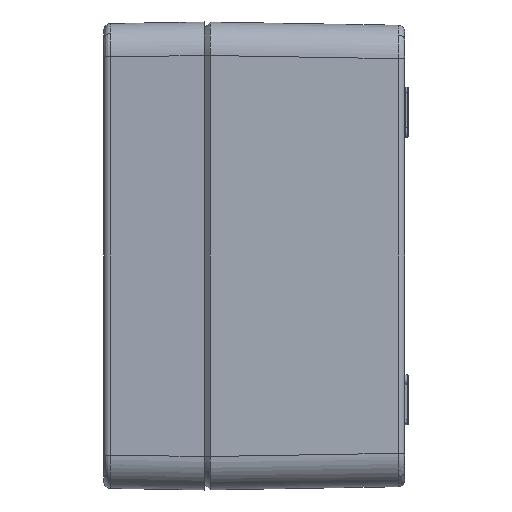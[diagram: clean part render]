
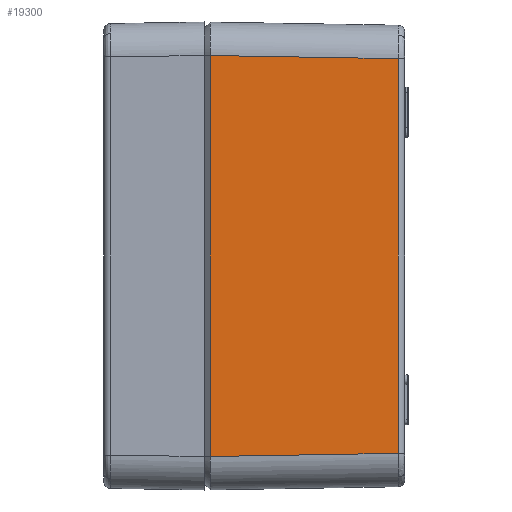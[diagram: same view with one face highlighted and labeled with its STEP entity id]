
A CAD part, left-side view. The second image highlights one B-rep face of the part: STEP entity #19300.
In plain terms, the highlighted planar face has unit normal (-1, -0.017, 0).
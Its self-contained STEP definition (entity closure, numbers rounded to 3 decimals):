
#163 = ORIENTED_EDGE ( 'NONE', *, *, #24269, .T. ) ;
#702 = CARTESIAN_POINT ( 'NONE',  ( -99.033, -58.033, 59.034 ) ) ;
#4187 = CARTESIAN_POINT ( 'NONE',  ( -99.033, -58.033, 59.001 ) ) ;
#4540 = ORIENTED_EDGE ( 'NONE', *, *, #5304, .T. ) ;
#4602 = DIRECTION ( 'NONE',  ( -1., -0.017, 0. ) ) ;
#5304 = EDGE_CURVE ( 'NONE', #18260, #7636, #10612, .T. ) ;
#7636 = VERTEX_POINT ( 'NONE', #29131 ) ;
#9640 = ORIENTED_EDGE ( 'NONE', *, *, #26011, .T. ) ;
#10612 = LINE ( 'NONE', #13188, #15357 ) ;
#12832 = DIRECTION ( 'NONE',  ( -0.017, 1., 0. ) ) ;
#13188 = CARTESIAN_POINT ( 'NONE',  ( -100.003, 0.167, -60.004 ) ) ;
#13541 = CARTESIAN_POINT ( 'NONE',  ( -99.97, -1.8, 59.971 ) ) ;
#15357 = VECTOR ( 'NONE', #16456, 1000. ) ;
#16456 = DIRECTION ( 'NONE',  ( 0.017, -1., 0.017 ) ) ;
#17658 = EDGE_CURVE ( 'NONE', #18005, #30379, #29591, .T. ) ;
#17660 = PLANE ( 'NONE',  #21536 ) ;
#17827 = CARTESIAN_POINT ( 'NONE',  ( -100., 0., -70. ) ) ;
#18005 = VERTEX_POINT ( 'NONE', #702 ) ;
#18260 = VERTEX_POINT ( 'NONE', #32792 ) ;
#18364 = VECTOR ( 'NONE', #28050, 1000. ) ;
#19300 = ADVANCED_FACE ( 'NONE', ( #33311 ), #17660, .T. ) ;
#21536 = AXIS2_PLACEMENT_3D ( 'NONE', #17827, #4602, #12832 ) ;
#22300 = VECTOR ( 'NONE', #27287, 1000. ) ;
#23160 = EDGE_LOOP ( 'NONE', ( #4540, #163, #26576, #9640 ) ) ;
#24269 = EDGE_CURVE ( 'NONE', #7636, #18005, #29964, .T. ) ;
#26011 = EDGE_CURVE ( 'NONE', #30379, #18260, #32979, .T. ) ;
#26576 = ORIENTED_EDGE ( 'NONE', *, *, #17658, .T. ) ;
#26659 = DIRECTION ( 'NONE',  ( -0.017, 1., 0.017 ) ) ;
#27165 = CARTESIAN_POINT ( 'NONE',  ( -99.964, -2.165, 59.965 ) ) ;
#27287 = DIRECTION ( 'NONE',  ( 0., 0., -1. ) ) ;
#27807 = CARTESIAN_POINT ( 'NONE',  ( -99.97, -1.8, -70. ) ) ;
#28050 = DIRECTION ( 'NONE',  ( 0., 0., 1. ) ) ;
#29131 = CARTESIAN_POINT ( 'NONE',  ( -99.033, -58.033, -59.034 ) ) ;
#29591 = LINE ( 'NONE', #27165, #32999 ) ;
#29964 = LINE ( 'NONE', #4187, #18364 ) ;
#30379 = VERTEX_POINT ( 'NONE', #13541 ) ;
#32792 = CARTESIAN_POINT ( 'NONE',  ( -99.97, -1.8, -59.971 ) ) ;
#32979 = LINE ( 'NONE', #27807, #22300 ) ;
#32999 = VECTOR ( 'NONE', #26659, 1000. ) ;
#33311 = FACE_OUTER_BOUND ( 'NONE', #23160, .T. ) ;
